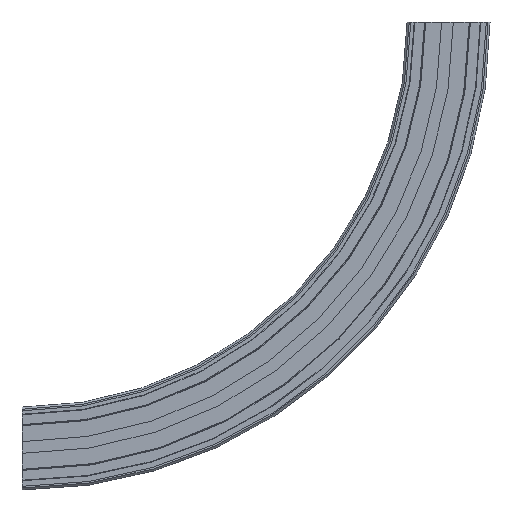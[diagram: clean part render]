
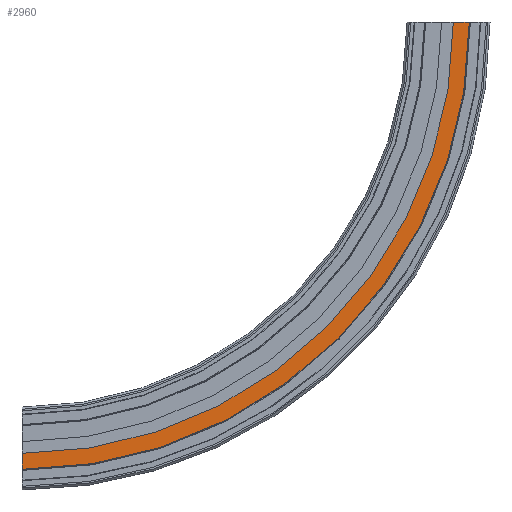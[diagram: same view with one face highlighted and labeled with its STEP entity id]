
A CAD part, front view. The second image highlights one B-rep face of the part: STEP entity #2960.
In plain terms, the highlighted planar face has unit normal (0, -1, 0).
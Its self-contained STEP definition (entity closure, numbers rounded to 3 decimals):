
#2902=CARTESIAN_POINT('',(420.5,-32.,362.));
#2903=VERTEX_POINT('',#2902);
#2910=CARTESIAN_POINT('',(0.0,-32.,-58.5));
#2911=VERTEX_POINT('',#2910);
#2912=CARTESIAN_POINT('',(0.,-32.,362.0));
#2913=DIRECTION('',(0.0,-1.0,0.0));
#2914=DIRECTION('',(-1.0,0.0,0.0));
#2915=AXIS2_PLACEMENT_3D('',#2912,#2913,#2914);
#2916=CIRCLE('',#2915,420.5);
#2917=EDGE_CURVE('',#2911,#2903,#2916,.T.);
#2929=CARTESIAN_POINT('',(0.0,-32.,-51.));
#2930=DIRECTION('',(0.0,-1.0,0.0));
#2931=DIRECTION('',(0.0,0.0,-1.0));
#2932=AXIS2_PLACEMENT_3D('',#2929,#2930,#2931);
#2933=PLANE('',#2932);
#2934=CARTESIAN_POINT('',(405.5,-32.,362.));
#2935=VERTEX_POINT('',#2934);
#2936=CARTESIAN_POINT('',(420.5,-32.,362.));
#2937=DIRECTION('',(-1.0,0.0,0.0));
#2938=VECTOR('',#2937,15.);
#2939=LINE('',#2936,#2938);
#2940=EDGE_CURVE('',#2903,#2935,#2939,.T.);
#2941=ORIENTED_EDGE('',*,*,#2940,.T.);
#2942=CARTESIAN_POINT('',(0.0,-32.,-43.5));
#2943=VERTEX_POINT('',#2942);
#2944=CARTESIAN_POINT('',(0.,-32.,362.0));
#2945=DIRECTION('',(0.0,-1.0,0.0));
#2946=DIRECTION('',(-1.0,0.0,0.0));
#2947=AXIS2_PLACEMENT_3D('',#2944,#2945,#2946);
#2948=CIRCLE('',#2947,405.5);
#2949=EDGE_CURVE('',#2943,#2935,#2948,.T.);
#2950=ORIENTED_EDGE('',*,*,#2949,.F.);
#2951=CARTESIAN_POINT('',(0.0,-32.,-43.5));
#2952=DIRECTION('',(0.0,0.0,-1.0));
#2953=VECTOR('',#2952,15.);
#2954=LINE('',#2951,#2953);
#2955=EDGE_CURVE('',#2943,#2911,#2954,.T.);
#2956=ORIENTED_EDGE('',*,*,#2955,.T.);
#2957=ORIENTED_EDGE('',*,*,#2917,.T.);
#2958=EDGE_LOOP('',(#2941,#2950,#2956,#2957));
#2959=FACE_OUTER_BOUND('',#2958,.T.);
#2960=ADVANCED_FACE('',(#2959),#2933,.T.);
